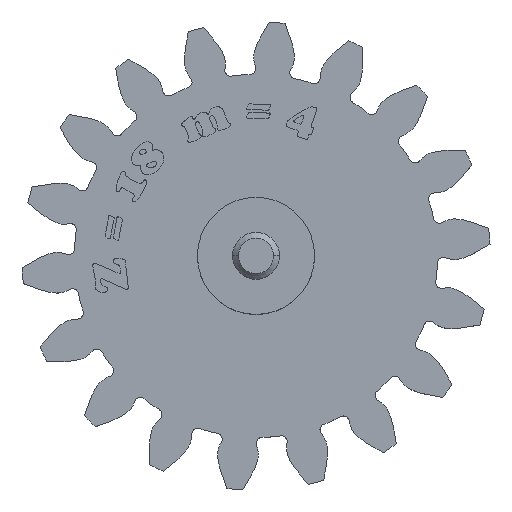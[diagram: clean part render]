
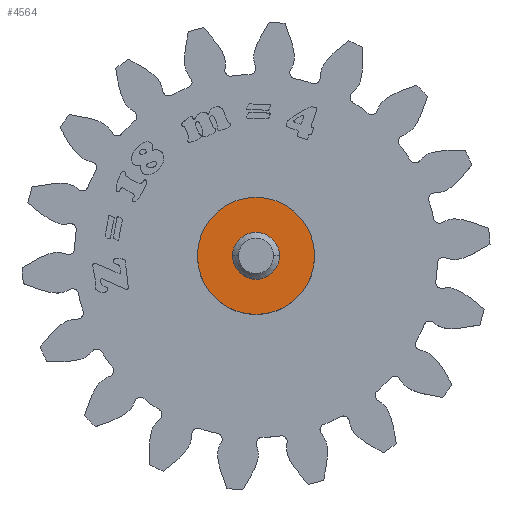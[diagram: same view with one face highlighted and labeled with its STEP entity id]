
A CAD part, top view. The second image highlights one B-rep face of the part: STEP entity #4564.
In plain terms, the highlighted planar face has unit normal (0, 0, 1).
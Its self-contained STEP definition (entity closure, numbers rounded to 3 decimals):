
#350 = DIRECTION ( 'NONE',  ( 1., 0., 0. ) ) ;
#439 = ORIENTED_EDGE ( 'NONE', *, *, #4374, .F. ) ;
#508 = EDGE_LOOP ( 'NONE', ( #17474, #4522 ) ) ;
#740 = AXIS2_PLACEMENT_3D ( 'NONE', #7213, #12798, #11056 ) ;
#826 = DIRECTION ( 'NONE',  ( 1., 0., 0. ) ) ;
#1550 = FACE_OUTER_BOUND ( 'NONE', #508, .T. ) ;
#2360 = ORIENTED_EDGE ( 'NONE', *, *, #7244, .F. ) ;
#2404 = CIRCLE ( 'NONE', #7099, 4. ) ;
#2495 = VERTEX_POINT ( 'NONE', #3569 ) ;
#3478 = CIRCLE ( 'NONE', #17541, 4. ) ;
#3569 = CARTESIAN_POINT ( 'NONE',  ( 10., 0., 3. ) ) ;
#4374 = EDGE_CURVE ( 'NONE', #16125, #10567, #2404, .T. ) ;
#4522 = ORIENTED_EDGE ( 'NONE', *, *, #6421, .T. ) ;
#4564 = ADVANCED_FACE ( 'NONE', ( #1550, #16954 ), #14113, .T. ) ;
#4607 = DIRECTION ( 'NONE',  ( 1., 0., 0. ) ) ;
#4876 = CARTESIAN_POINT ( 'NONE',  ( -4., 0., 3. ) ) ;
#5760 = DIRECTION ( 'NONE',  ( 1., 0., 0. ) ) ;
#6421 = EDGE_CURVE ( 'NONE', #2495, #11789, #11868, .T. ) ;
#7099 = AXIS2_PLACEMENT_3D ( 'NONE', #14321, #17157, #4607 ) ;
#7213 = CARTESIAN_POINT ( 'NONE',  ( 0., 0., 3. ) ) ;
#7218 = DIRECTION ( 'NONE',  ( 0., 0., 1. ) ) ;
#7244 = EDGE_CURVE ( 'NONE', #10567, #16125, #3478, .T. ) ;
#7701 = AXIS2_PLACEMENT_3D ( 'NONE', #10549, #10814, #826 ) ;
#8498 = CARTESIAN_POINT ( 'NONE',  ( 0., 0., 3. ) ) ;
#10549 = CARTESIAN_POINT ( 'NONE',  ( 0., 0., 3. ) ) ;
#10567 = VERTEX_POINT ( 'NONE', #4876 ) ;
#10601 = EDGE_CURVE ( 'NONE', #11789, #2495, #17344, .T. ) ;
#10814 = DIRECTION ( 'NONE',  ( 0., 0., 1. ) ) ;
#11056 = DIRECTION ( 'NONE',  ( 1., 0., 0. ) ) ;
#11789 = VERTEX_POINT ( 'NONE', #17853 ) ;
#11868 = CIRCLE ( 'NONE', #740, 10. ) ;
#12742 = DIRECTION ( 'NONE',  ( 0., 0., 1. ) ) ;
#12798 = DIRECTION ( 'NONE',  ( 0., 0., 1. ) ) ;
#13513 = AXIS2_PLACEMENT_3D ( 'NONE', #16781, #12742, #350 ) ;
#14113 = PLANE ( 'NONE',  #13513 ) ;
#14321 = CARTESIAN_POINT ( 'NONE',  ( 0., 0., 3. ) ) ;
#15600 = CARTESIAN_POINT ( 'NONE',  ( 4., 0., 3. ) ) ;
#16125 = VERTEX_POINT ( 'NONE', #15600 ) ;
#16781 = CARTESIAN_POINT ( 'NONE',  ( 0., 0., 3. ) ) ;
#16954 = FACE_BOUND ( 'NONE', #17433, .T. ) ;
#17157 = DIRECTION ( 'NONE',  ( 0., 0., 1. ) ) ;
#17344 = CIRCLE ( 'NONE', #7701, 10. ) ;
#17433 = EDGE_LOOP ( 'NONE', ( #2360, #439 ) ) ;
#17474 = ORIENTED_EDGE ( 'NONE', *, *, #10601, .T. ) ;
#17541 = AXIS2_PLACEMENT_3D ( 'NONE', #8498, #7218, #5760 ) ;
#17853 = CARTESIAN_POINT ( 'NONE',  ( -10., 0., 3. ) ) ;
